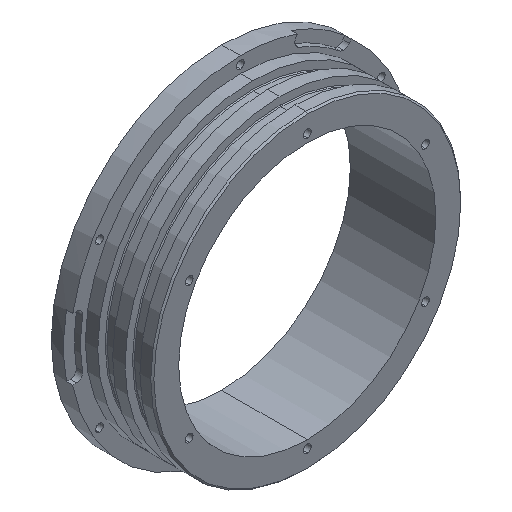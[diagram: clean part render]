
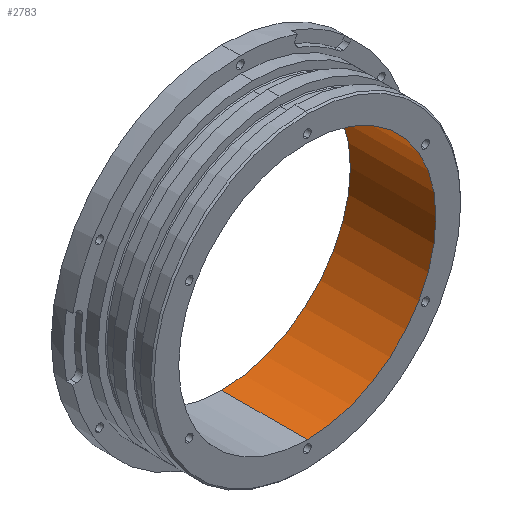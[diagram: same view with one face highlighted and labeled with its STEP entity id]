
A CAD part, isometric view. The second image highlights one B-rep face of the part: STEP entity #2783.
In plain terms, the highlighted cylindrical face has radius 41.5 mm (diameter 83 mm), a partial arc.
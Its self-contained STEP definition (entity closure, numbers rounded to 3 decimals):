
#71 = CARTESIAN_POINT ( 'NONE',  ( 0., -21.6, -41.5 ) ) ;
#76 = VERTEX_POINT ( 'NONE', #800 ) ;
#79 = ORIENTED_EDGE ( 'NONE', *, *, #1869, .T. ) ;
#139 = EDGE_CURVE ( 'NONE', #1649, #2033, #1493, .T. ) ;
#196 = CARTESIAN_POINT ( 'NONE',  ( 0., -45., 0. ) ) ;
#368 = CARTESIAN_POINT ( 'NONE',  ( 0., -45., -41.5 ) ) ;
#371 = DIRECTION ( 'NONE',  ( 0., 1., 0. ) ) ;
#393 = DIRECTION ( 'NONE',  ( 0., 0., -1. ) ) ;
#398 = ORIENTED_EDGE ( 'NONE', *, *, #139, .F. ) ;
#774 = CIRCLE ( 'NONE', #1529, 41.5 ) ;
#798 = VECTOR ( 'NONE', #1456, 1000. ) ;
#800 = CARTESIAN_POINT ( 'NONE',  ( 0., 6., 41.5 ) ) ;
#906 = AXIS2_PLACEMENT_3D ( 'NONE', #196, #1973, #1097 ) ;
#1035 = ORIENTED_EDGE ( 'NONE', *, *, #2668, .T. ) ;
#1097 = DIRECTION ( 'NONE',  ( 0., 0., 1. ) ) ;
#1388 = EDGE_CURVE ( 'NONE', #76, #2033, #774, .T. ) ;
#1411 = VERTEX_POINT ( 'NONE', #2665 ) ;
#1456 = DIRECTION ( 'NONE',  ( 0., 1., 0. ) ) ;
#1493 = LINE ( 'NONE', #368, #798 ) ;
#1509 = DIRECTION ( 'NONE',  ( 0., -1., 0. ) ) ;
#1529 = AXIS2_PLACEMENT_3D ( 'NONE', #2855, #2885, #1551 ) ;
#1551 = DIRECTION ( 'NONE',  ( 0., 0., 1. ) ) ;
#1631 = FACE_OUTER_BOUND ( 'NONE', #1662, .T. ) ;
#1633 = CYLINDRICAL_SURFACE ( 'NONE', #906, 41.5 ) ;
#1649 = VERTEX_POINT ( 'NONE', #71 ) ;
#1662 = EDGE_LOOP ( 'NONE', ( #398, #79, #1035, #2261 ) ) ;
#1869 = EDGE_CURVE ( 'NONE', #1649, #1411, #2346, .T. ) ;
#1917 = LINE ( 'NONE', #2158, #2751 ) ;
#1973 = DIRECTION ( 'NONE',  ( 0., 1., 0. ) ) ;
#2033 = VERTEX_POINT ( 'NONE', #2705 ) ;
#2158 = CARTESIAN_POINT ( 'NONE',  ( 0., -45., 41.5 ) ) ;
#2261 = ORIENTED_EDGE ( 'NONE', *, *, #1388, .T. ) ;
#2346 = CIRCLE ( 'NONE', #2859, 41.5 ) ;
#2630 = CARTESIAN_POINT ( 'NONE',  ( 0., -21.6, 0. ) ) ;
#2665 = CARTESIAN_POINT ( 'NONE',  ( 0., -21.6, 41.5 ) ) ;
#2668 = EDGE_CURVE ( 'NONE', #1411, #76, #1917, .T. ) ;
#2705 = CARTESIAN_POINT ( 'NONE',  ( 0., 6., -41.5 ) ) ;
#2751 = VECTOR ( 'NONE', #371, 1000. ) ;
#2783 = ADVANCED_FACE ( 'NONE', ( #1631 ), #1633, .F. ) ;
#2855 = CARTESIAN_POINT ( 'NONE',  ( 0., 6., 0. ) ) ;
#2859 = AXIS2_PLACEMENT_3D ( 'NONE', #2630, #1509, #393 ) ;
#2885 = DIRECTION ( 'NONE',  ( 0., 1., 0. ) ) ;
